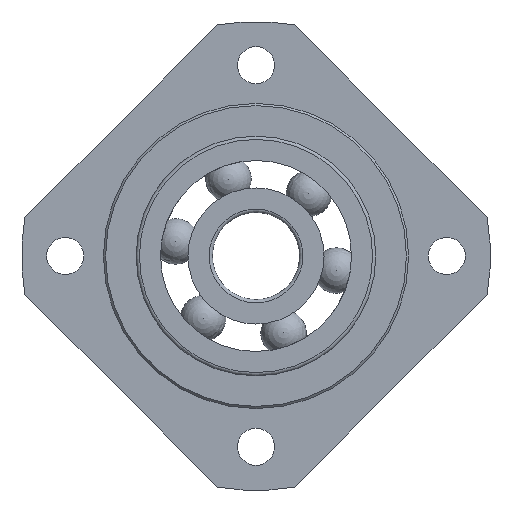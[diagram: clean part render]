
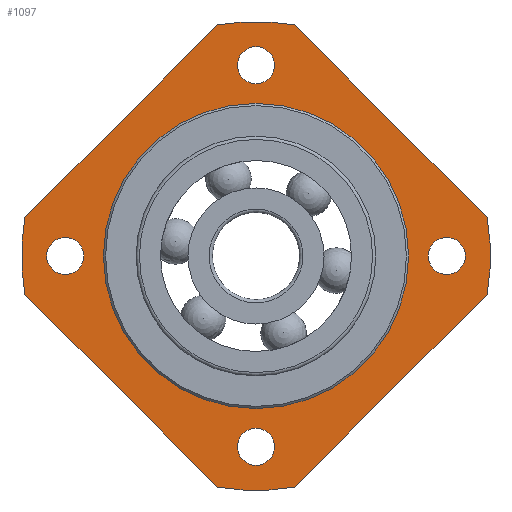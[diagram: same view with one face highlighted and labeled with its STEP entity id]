
A CAD part, left-side view. The second image highlights one B-rep face of the part: STEP entity #1097.
In plain terms, the highlighted planar face has unit normal (-1, 0, 0).
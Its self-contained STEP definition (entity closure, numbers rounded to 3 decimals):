
#114=LINE('',#1722,#134);
#118=LINE('',#1731,#138);
#123=LINE('',#1771,#143);
#124=LINE('',#1772,#144);
#134=VECTOR('',#1387,24.98);
#138=VECTOR('',#1397,24.98);
#143=VECTOR('',#1448,24.98);
#144=VECTOR('',#1449,24.98);
#157=PLANE('',#1207);
#209=FACE_BOUND('',#365,.T.);
#210=FACE_BOUND('',#366,.T.);
#211=FACE_BOUND('',#367,.T.);
#212=FACE_BOUND('',#368,.T.);
#213=FACE_BOUND('',#369,.T.);
#275=FACE_OUTER_BOUND('',#364,.T.);
#364=EDGE_LOOP('',(#864,#865,#866,#867,#868,#869,#870,#871));
#365=EDGE_LOOP('',(#872));
#366=EDGE_LOOP('',(#873));
#367=EDGE_LOOP('',(#874));
#368=EDGE_LOOP('',(#875));
#369=EDGE_LOOP('',(#876));
#426=CIRCLE('',#1139,14.);
#449=CIRCLE('',#1183,21.5);
#450=CIRCLE('',#1186,21.5);
#452=CIRCLE('',#1190,1.7);
#454=CIRCLE('',#1194,1.7);
#456=CIRCLE('',#1198,1.7);
#458=CIRCLE('',#1202,1.7);
#459=CIRCLE('',#1204,21.5);
#460=CIRCLE('',#1206,21.5);
#499=VERTEX_POINT('',#1605);
#530=VERTEX_POINT('',#1719);
#531=VERTEX_POINT('',#1721);
#532=VERTEX_POINT('',#1725);
#533=VERTEX_POINT('',#1729);
#534=VERTEX_POINT('',#1733);
#536=VERTEX_POINT('',#1740);
#538=VERTEX_POINT('',#1746);
#540=VERTEX_POINT('',#1752);
#542=VERTEX_POINT('',#1758);
#543=VERTEX_POINT('',#1761);
#544=VERTEX_POINT('',#1765);
#545=VERTEX_POINT('',#1767);
#608=EDGE_CURVE('',#499,#499,#426,.T.);
#648=EDGE_CURVE('',#530,#531,#114,.T.);
#651=EDGE_CURVE('',#530,#532,#449,.T.);
#653=EDGE_CURVE('',#533,#532,#118,.T.);
#655=EDGE_CURVE('',#533,#534,#450,.T.);
#657=EDGE_CURVE('',#536,#536,#452,.T.);
#659=EDGE_CURVE('',#538,#538,#454,.T.);
#661=EDGE_CURVE('',#540,#540,#456,.T.);
#663=EDGE_CURVE('',#542,#542,#458,.T.);
#664=EDGE_CURVE('',#543,#531,#459,.T.);
#667=EDGE_CURVE('',#545,#544,#460,.T.);
#669=EDGE_CURVE('',#545,#534,#123,.T.);
#670=EDGE_CURVE('',#543,#544,#124,.T.);
#864=ORIENTED_EDGE('',*,*,#651,.T.);
#865=ORIENTED_EDGE('',*,*,#653,.F.);
#866=ORIENTED_EDGE('',*,*,#655,.T.);
#867=ORIENTED_EDGE('',*,*,#669,.F.);
#868=ORIENTED_EDGE('',*,*,#667,.T.);
#869=ORIENTED_EDGE('',*,*,#670,.F.);
#870=ORIENTED_EDGE('',*,*,#664,.T.);
#871=ORIENTED_EDGE('',*,*,#648,.F.);
#872=ORIENTED_EDGE('',*,*,#608,.T.);
#873=ORIENTED_EDGE('',*,*,#657,.T.);
#874=ORIENTED_EDGE('',*,*,#659,.T.);
#875=ORIENTED_EDGE('',*,*,#661,.T.);
#876=ORIENTED_EDGE('',*,*,#663,.T.);
#1097=ADVANCED_FACE('',(#275,#209,#210,#211,#212,#213),#157,.F.);
#1139=AXIS2_PLACEMENT_3D('',#1606,#1292,#1293);
#1183=AXIS2_PLACEMENT_3D('',#1727,#1392,#1393);
#1186=AXIS2_PLACEMENT_3D('',#1735,#1401,#1402);
#1190=AXIS2_PLACEMENT_3D('',#1741,#1409,#1410);
#1194=AXIS2_PLACEMENT_3D('',#1747,#1417,#1418);
#1198=AXIS2_PLACEMENT_3D('',#1753,#1425,#1426);
#1202=AXIS2_PLACEMENT_3D('',#1759,#1433,#1434);
#1204=AXIS2_PLACEMENT_3D('',#1762,#1437,#1438);
#1206=AXIS2_PLACEMENT_3D('',#1768,#1443,#1444);
#1207=AXIS2_PLACEMENT_3D('',#1770,#1446,#1447);
#1292=DIRECTION('center_axis',(1.,0.,0.));
#1293=DIRECTION('ref_axis',(0.,0.,-1.));
#1387=DIRECTION('',(0.,0.707,-0.707));
#1392=DIRECTION('center_axis',(-1.,0.,0.));
#1393=DIRECTION('ref_axis',(0.,0.,1.));
#1397=DIRECTION('',(0.,-0.707,-0.707));
#1401=DIRECTION('center_axis',(-1.,0.,0.));
#1402=DIRECTION('ref_axis',(0.,0.,1.));
#1409=DIRECTION('center_axis',(1.,0.,0.));
#1410=DIRECTION('ref_axis',(0.,0.,-1.));
#1417=DIRECTION('center_axis',(1.,0.,0.));
#1418=DIRECTION('ref_axis',(0.,0.,-1.));
#1425=DIRECTION('center_axis',(1.,0.,0.));
#1426=DIRECTION('ref_axis',(0.,0.,-1.));
#1433=DIRECTION('center_axis',(1.,0.,0.));
#1434=DIRECTION('ref_axis',(0.,0.,-1.));
#1437=DIRECTION('center_axis',(-1.,0.,0.));
#1438=DIRECTION('ref_axis',(0.,0.,1.));
#1443=DIRECTION('center_axis',(-1.,0.,0.));
#1444=DIRECTION('ref_axis',(0.,0.,1.));
#1446=DIRECTION('center_axis',(1.,0.,0.));
#1447=DIRECTION('ref_axis',(0.,0.,-1.));
#1448=DIRECTION('',(0.,-0.707,0.707));
#1449=DIRECTION('',(0.,0.707,0.707));
#1605=CARTESIAN_POINT('',(0.,0.,14.));
#1606=CARTESIAN_POINT('Origin',(0.,0.,0.));
#1719=CARTESIAN_POINT('',(0.,-21.206,-3.543));
#1721=CARTESIAN_POINT('',(0.,-3.543,-21.206));
#1722=CARTESIAN_POINT('',(0.,-24.749,0.));
#1725=CARTESIAN_POINT('',(0.,-21.206,3.543));
#1727=CARTESIAN_POINT('Origin',(0.,0.,0.));
#1729=CARTESIAN_POINT('',(0.,-3.543,21.206));
#1731=CARTESIAN_POINT('',(0.,0.,24.749));
#1733=CARTESIAN_POINT('',(0.,3.543,21.206));
#1735=CARTESIAN_POINT('Origin',(0.,0.,0.));
#1740=CARTESIAN_POINT('',(0.,-17.5,1.7));
#1741=CARTESIAN_POINT('Origin',(0.,-17.5,0.));
#1746=CARTESIAN_POINT('',(0.,17.5,1.7));
#1747=CARTESIAN_POINT('Origin',(0.,17.5,0.));
#1752=CARTESIAN_POINT('',(0.,0.,-15.8));
#1753=CARTESIAN_POINT('Origin',(0.,0.,-17.5));
#1758=CARTESIAN_POINT('',(0.,0.,19.2));
#1759=CARTESIAN_POINT('Origin',(0.,0.,17.5));
#1761=CARTESIAN_POINT('',(0.,3.543,-21.206));
#1762=CARTESIAN_POINT('Origin',(0.,0.,0.));
#1765=CARTESIAN_POINT('',(0.,21.206,-3.543));
#1767=CARTESIAN_POINT('',(0.,21.206,3.543));
#1768=CARTESIAN_POINT('Origin',(0.,0.,0.));
#1770=CARTESIAN_POINT('Origin',(0.,8.75,8.75));
#1771=CARTESIAN_POINT('',(0.,24.749,0.));
#1772=CARTESIAN_POINT('',(0.,0.,-24.749));
